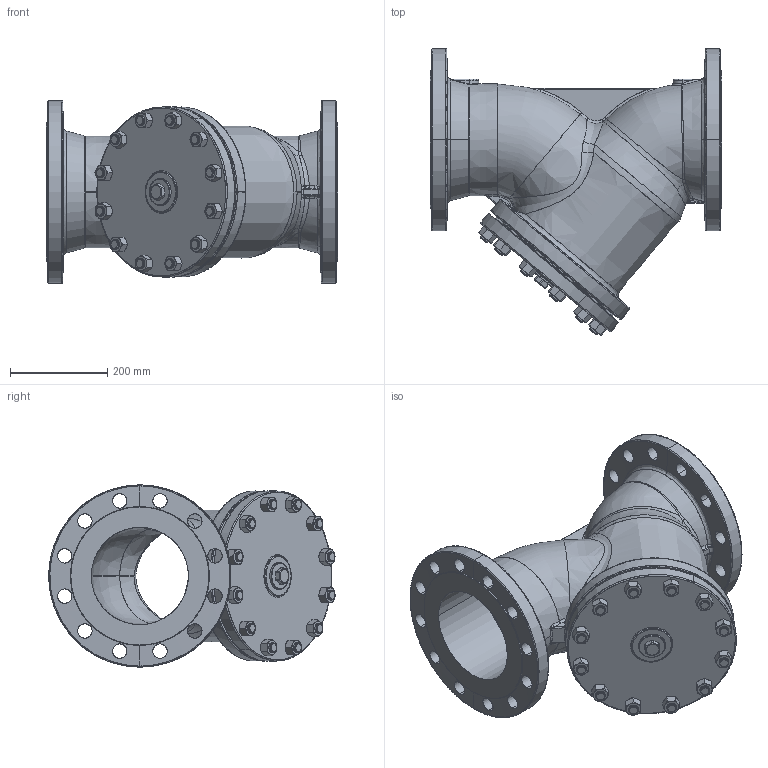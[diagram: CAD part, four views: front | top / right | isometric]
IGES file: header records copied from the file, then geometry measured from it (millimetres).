
Start section: SolidWorks IGES file using analytic representation for surfaces
Global section: file name: D:\Archiwum SolidWorks\staliwo\821\PN40\CAD\821_DN200 PN40.IGS; native system: SolidWorks 2010; preprocessor: SolidWorks 2010; author: wtarnaws; date: 100113.085518; units: millimetre
Bounding box: 600 x 589.52 x 375 mm (x, y, z)
Surface area: 1840430.5 mm2 (no closed solid volume)
Topology: 0 solids, 0 shells, 1096 faces, 18573 edges, 18569 vertices
Faces by surface type: revolution 662, bspline 434
